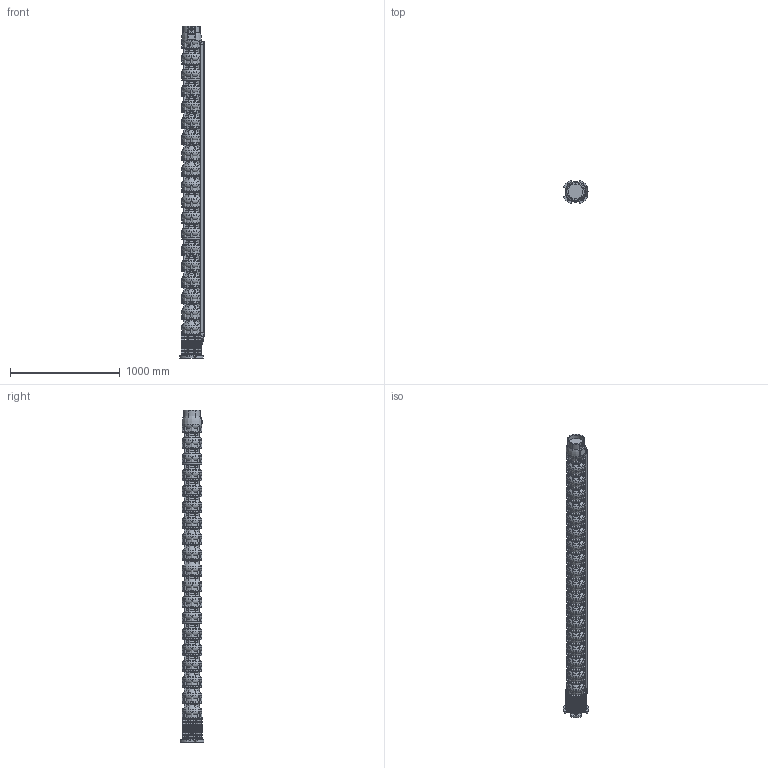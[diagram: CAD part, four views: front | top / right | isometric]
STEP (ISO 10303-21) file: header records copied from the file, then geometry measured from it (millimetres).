
FILE_DESCRIPTION(/* description */ ('Unknown'),/* implementation_level */ '2;1');
FILE_NAME(/* name */ 'VSI134-18_WR_M10-50_DME',/* time_stamp */ '2023-09-14T14:41:36+02:00',/* author */ ('Unknown'),/* organization */ ('Unknown'),/* preprocessor_version */ 'ST-DEVELOPER v18.102',/* originating_system */ 'Solid Edge',/* authorisation */ 'Unknown');
FILE_SCHEMA (('AUTOMOTIVE_DESIGN {1 0 10303 214 3 1 1}'));
Products named in the file (12): VSI134-18_WR_M10-50_DME; VSI134_testata; VSI134_diffusore; VSI134_supporto_8×8; VSI134_adattatore_8×10; VSI134_filtro_A; VSI134_filtro_B; VSI134_terminale_top_copricavo_medio; VSI134_terminale_bottom_copricavo_medio; MID 134-18; M5X8_UNI7687; VSI134_giunto_8×10
Assembly tree (37 placements, depth 2):
  VSI134-18_WR_M10-50_DME
    VSI134_testata
    VSI134_diffusore  x18
    VSI134_supporto_8×8
    VSI134_adattatore_8×10
    VSI134_filtro_A
    VSI134_filtro_B
    VSI134_terminale_top_copricavo_medio
    VSI134_terminale_bottom_copricavo_medio
    MID 134-18
    M5X8_UNI7687  x10
    VSI134_giunto_8×10
Bounding box: 221.78 x 213.16 x 3028 mm (x, y, z)
Volume: 56672389.6 mm3; surface area: 4310072.8 mm2
Topology: 76 solids, 78 shells, 5455 faces, 15361 edges, 10264 vertices
Faces by surface type: plane 3831, torus 828, cylinder 682, cone 71, bspline 31, sphere 12
Full cylindrical faces by diameter (mm): 2.4 x2, 3 x2, 4.2 x16, 5 x10, 5.5 x8, 14 x4, 16 x4, 17.5 x4, 26 x1, 30 x4, 44 x1, 65 x1, 69 x1, 74 x1, 84 x1, 98 x1, 127 x2, 135.472 x1, 157 x1, 182 x19
Entity records: 85379 total; most frequent: CARTESIAN_POINT 18302, ORIENTED_EDGE 13946, DIRECTION 13468, EDGE_CURVE 6973, VERTEX_POINT 4707, AXIS2_PLACEMENT_3D 4612, LINE 4244, VECTOR 4244
